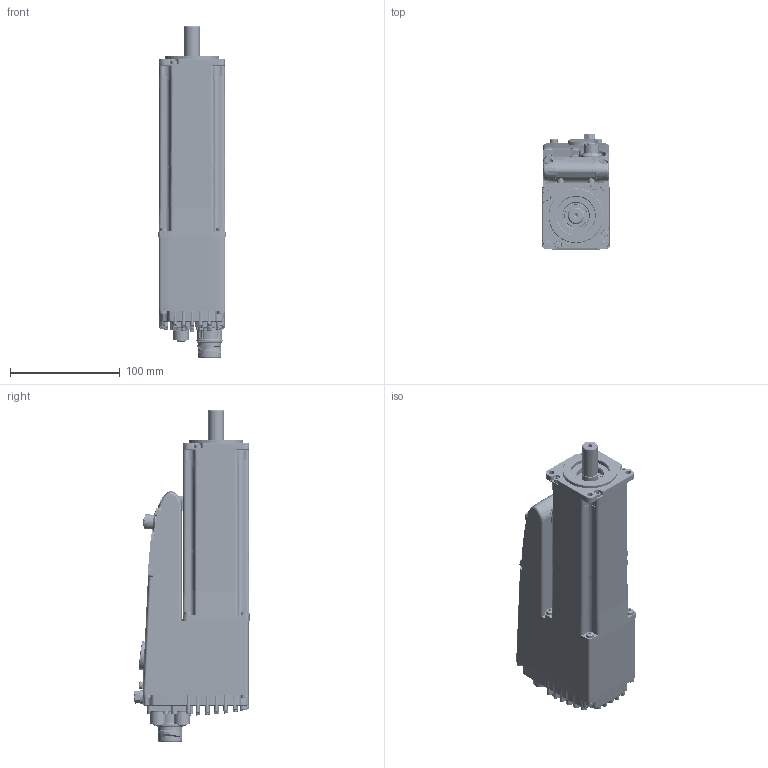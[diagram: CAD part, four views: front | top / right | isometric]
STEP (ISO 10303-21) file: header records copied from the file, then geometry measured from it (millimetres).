
FILE_DESCRIPTION(/* description */ ('Unknown'),/* implementation_level */ '2;1');
FILE_NAME(/* name */ 'DUET60 1,3 A1 1 E 2 (Q0C007)',/* time_stamp */ '2020-11-04T15:18:14+01:00',/* author */ ('Unknown'),/* organization */ ('Unknown'),/* preprocessor_version */ 'ST-DEVELOPER v16.7',/* originating_system */ 'DEX',/* authorisation */ $);
FILE_SCHEMA (('AUTOMOTIVE_DESIGN {1 0 10303 214 3 1 1}'));
Products named in the file (57): DUET60 1,3 A1 1 E 2 (Q0C007); 003251021030; 005123000690; 005123000690_0; 005123000690_1; 005123000690_2; 005123000690_3; 005123000690_4; 005123000690_5; 005123000690_6; 005755000060; 005751000100; 005123000100; 005123000100_0; 005123000100_1; 005123000100_2; 005123000100_3; 005123000100_4; 005123000100_5; 005911000198; 003108002506; 005911000182; 005008000510-oa0; 005008000740-oa1; 005008000740-oa2; 005007000200; 003116000122; 005911000200; 003155002057; 005008000744-oa3; 007803003640; 007055000370; 005113000100; 005711000954; 005911003643; MD031601.1.0; 005911000495; N01A68; 003120003045; 052400000001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
Assembly tree (97 placements, depth 4):
  DUET60 1,3 A1 1 E 2 (Q0C007)
    003251021030
    005123000690
    005123000690_0
    005123000690_1
    005123000690_2
    005123000690_3
    005123000690_4
    005123000690_5
    005123000690_6
    005755000060
    005751000100
    005123000100
    005123000100_0
    005123000100_1
    005123000100_2
    005123000100_3
    005123000100_4
    005123000100_5
    005911000198  x4
    003108002506
    005911000182
    005008000510-oa0
    005008000740-oa1
    005008000740-oa2
    005007000200
    003116000122
    005911000200  x4
    003155002057
    005008000744-oa3
    007803003640  x4
    007055000370  x4
    005113000100
    005711000954
    005911003643
    MD031601.1.0
    005911000495  x4
    N01A68
    003120003045
    052400000001
      LC431503.0.0
        J_4302729  x2
        J_7601000000
        V_VTCTX3X10(8.8)  x11
        J_7084943121
        MD031604.0.0
        V_RP6
      MD031607.0.0
      MD031608.0.0
      V_VTCTX40X12A  x12
      V_VTCTXK30X8  x5
      MD031609.0.0
      V_V027400610
      169692
      MD081003.2.0
      MD141520.0.0
      CONEC-43-01063
Bounding box: 61.32 x 105.22 x 302.8 mm (x, y, z)
Volume: 456228.7 mm3; surface area: 292649.7 mm2
Topology: 96 solids, 97 shells, 4763 faces, 11909 edges, 7554 vertices
Faces by surface type: plane 2067, cylinder 1239, bspline 564, cone 421, torus 393, sphere 79
Full cylindrical faces by diameter (mm): 0.8 x8, 0.9 x8, 1.1 x8, 1.2 x4, 1.3 x8, 1.4 x8, 1.5 x8, 1.7 x2, 2.2 x5, 2.4 x15, 2.459 x15, 2.5 x25, 2.9 x4, 3 x38, 3.2 x26, 3.242 x1, 3.3 x1, 3.4 x8, 3.5 x18, 4 x14, 4.134 x1, 4.2 x2, 4.5 x6, 5 x7, 5.5 x31, 5.6 x5, 5.65 x4, 6 x22, 6.4 x1, 7 x12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
Entity records: 159171 total; most frequent: CARTESIAN_POINT 48450, ORIENTED_EDGE 18472, DIRECTION 18166, EDGE_CURVE 9236, AXIS2_PLACEMENT_3D 7049, VERTEX_POINT 6203, FACE_BOUND 5079, EDGE_LOOP 5026
